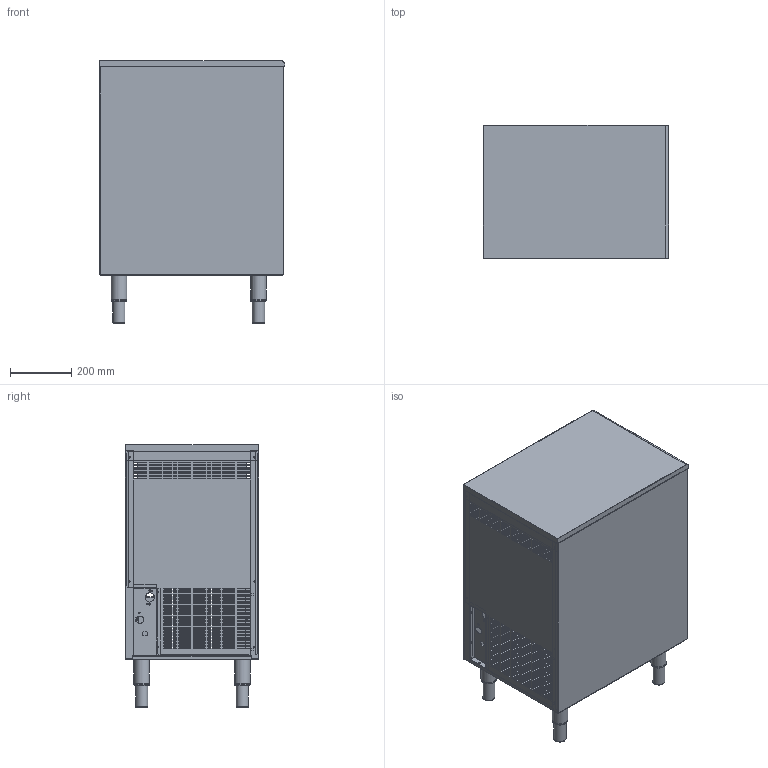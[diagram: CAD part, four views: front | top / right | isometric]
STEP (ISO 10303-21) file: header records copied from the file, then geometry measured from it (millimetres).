
FILE_DESCRIPTION(/* description */ ('Unknown'),/* implementation_level */ '2;1');
FILE_NAME(/* name */ 'eco-40',/* time_stamp */ '2018-04-20T08:46:01+02:00',/* author */ ('Unknown'),/* organization */ ('Unknown'),/* preprocessor_version */ 'ST-DEVELOPER v16.7',/* originating_system */ 'DEX',/* authorisation */ $);
FILE_SCHEMA (('CONFIG_CONTROL_DESIGN'));
Length unit declared in the file: millimetre
Products named in the file (11): eco-40; carroceria eco-40_oa_0; 37-1-4101; 37-45+4436_oa_1; 37-45+4437_oa_2; 37-46+4444; 37-47+4448+2086; 37-6+4107; 37-124+4108; 37-55+4456; 32-30
Assembly tree (13 placements, depth 3):
  eco-40
    carroceria eco-40_oa_0
      37-1-4101
      37-45+4436_oa_1
      37-45+4437_oa_2
      37-46+4444
      37-47+4448+2086
      37-6+4107
      37-124+4108
    37-55+4456
    32-30  x4
Bounding box: 604.52 x 435 x 858.25 mm (x, y, z)
Volume: 2777638.9 mm3; surface area: 4434803.3 mm2
Topology: 12 solids, 12 shells, 2033 faces, 5870 edges, 3877 vertices
Faces by surface type: plane 1700, cylinder 291, torus 16, bspline 14, cone 12
Full cylindrical faces by diameter (mm): 2.5 x6, 2.7 x19, 3.2 x2, 3.5 x9, 4.2 x10, 4.25 x36, 5 x11, 6 x16, 7 x12, 8 x9, 10 x4, 30 x1, 38 x4, 40 x4, 50 x4, 51 x4
Entity records: 66748 total; most frequent: CARTESIAN_POINT 11758, ORIENTED_EDGE 11202, DIRECTION 10103, EDGE_CURVE 5601, LINE 5019, VECTOR 5019, VERTEX_POINT 3771, EDGE_LOOP 3038
